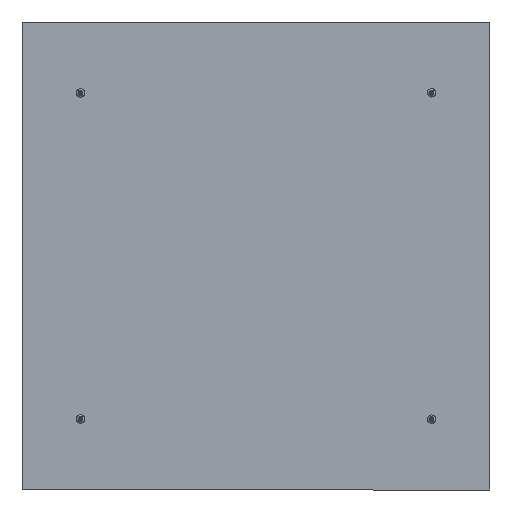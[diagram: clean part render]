
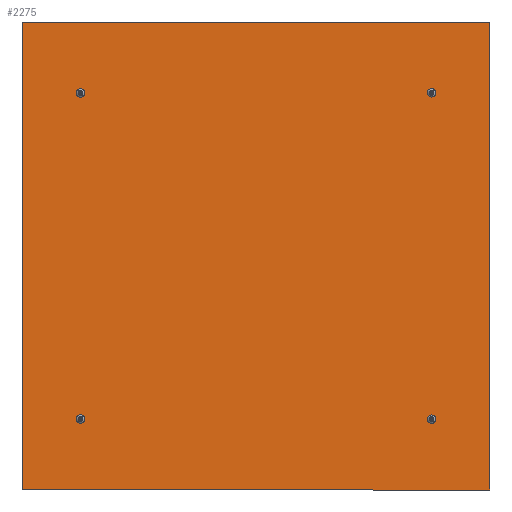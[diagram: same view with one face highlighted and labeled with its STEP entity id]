
A CAD part, left-side view. The second image highlights one B-rep face of the part: STEP entity #2275.
In plain terms, the highlighted planar face has unit normal (-1, 0, 0).
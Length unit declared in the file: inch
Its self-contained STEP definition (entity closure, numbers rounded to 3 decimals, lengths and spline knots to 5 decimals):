
#113 = EDGE_CURVE ( 'NONE', #14089, #4684, #14732, .T. ) ;
#153 = DIRECTION ( 'NONE',  ( 0., 0., -1. ) ) ;
#162 = EDGE_CURVE ( 'NONE', #4684, #14089, #8446, .T. ) ;
#181 = ORIENTED_EDGE ( 'NONE', *, *, #2170, .T. ) ;
#336 = EDGE_LOOP ( 'NONE', ( #756, #2829, #15972, #15269 ) ) ;
#376 = VECTOR ( 'NONE', #6240, 39.37008 ) ;
#472 = EDGE_LOOP ( 'NONE', ( #1552, #16819 ) ) ;
#756 = ORIENTED_EDGE ( 'NONE', *, *, #24342, .F. ) ;
#1537 = DIRECTION ( 'NONE',  ( 0., 0., -1. ) ) ;
#1552 = ORIENTED_EDGE ( 'NONE', *, *, #162, .T. ) ;
#1571 = AXIS2_PLACEMENT_3D ( 'NONE', #21933, #7183, #19822 ) ;
#1680 = LINE ( 'NONE', #10439, #16088 ) ;
#1873 = DIRECTION ( 'NONE',  ( 0., 0., -1. ) ) ;
#2170 = EDGE_CURVE ( 'NONE', #20501, #7026, #18481, .T. ) ;
#2275 = ADVANCED_FACE ( 'NONE', ( #14199, #19109, #16763, #19807, #25332 ), #5797, .F. ) ;
#2547 = VERTEX_POINT ( 'NONE', #21346 ) ;
#2625 = CIRCLE ( 'NONE', #21093, 0.1285 ) ;
#2829 = ORIENTED_EDGE ( 'NONE', *, *, #13573, .F. ) ;
#3190 = CARTESIAN_POINT ( 'NONE',  ( -0.125, 12., 12. ) ) ;
#3400 = ORIENTED_EDGE ( 'NONE', *, *, #3991, .T. ) ;
#3613 = CARTESIAN_POINT ( 'NONE',  ( -0.125, -9., 8.3675 ) ) ;
#3991 = EDGE_CURVE ( 'NONE', #24799, #16542, #21172, .T. ) ;
#4481 = LINE ( 'NONE', #10648, #10067 ) ;
#4684 = VERTEX_POINT ( 'NONE', #13951 ) ;
#5029 = CARTESIAN_POINT ( 'NONE',  ( -0.125, 12., 12. ) ) ;
#5157 = EDGE_LOOP ( 'NONE', ( #181, #18564 ) ) ;
#5318 = EDGE_CURVE ( 'NONE', #23612, #5933, #4481, .T. ) ;
#5695 = DIRECTION ( 'NONE',  ( 0., 0., -1. ) ) ;
#5797 = PLANE ( 'NONE',  #26718 ) ;
#5933 = VERTEX_POINT ( 'NONE', #25621 ) ;
#6240 = DIRECTION ( 'NONE',  ( 0., 1., 0. ) ) ;
#7026 = VERTEX_POINT ( 'NONE', #11860 ) ;
#7183 = DIRECTION ( 'NONE',  ( 1., 0., 0. ) ) ;
#7731 = EDGE_CURVE ( 'NONE', #2547, #14021, #2625, .T. ) ;
#7918 = DIRECTION ( 'NONE',  ( 0., 0., -1. ) ) ;
#8098 = AXIS2_PLACEMENT_3D ( 'NONE', #11524, #24118, #9394 ) ;
#8130 = AXIS2_PLACEMENT_3D ( 'NONE', #11984, #26678, #14118 ) ;
#8446 = CIRCLE ( 'NONE', #1571, 0.1285 ) ;
#8719 = CARTESIAN_POINT ( 'NONE',  ( -0.125, -9., 8.239 ) ) ;
#8802 = DIRECTION ( 'NONE',  ( 1., 0., 0. ) ) ;
#8851 = LINE ( 'NONE', #5029, #12145 ) ;
#9237 = DIRECTION ( 'NONE',  ( 0., -1., 0. ) ) ;
#9394 = DIRECTION ( 'NONE',  ( 0., 0., -1. ) ) ;
#9518 = CARTESIAN_POINT ( 'NONE',  ( -0.125, 9., 8.4885 ) ) ;
#9782 = CARTESIAN_POINT ( 'NONE',  ( -0.125, -9., -8.239 ) ) ;
#10067 = VECTOR ( 'NONE', #153, 39.37008 ) ;
#10147 = CARTESIAN_POINT ( 'NONE',  ( -0.125, 9., 8.36 ) ) ;
#10384 = CARTESIAN_POINT ( 'NONE',  ( -0.125, 9., -8.4885 ) ) ;
#10439 = CARTESIAN_POINT ( 'NONE',  ( -0.125, 12., 12. ) ) ;
#10648 = CARTESIAN_POINT ( 'NONE',  ( -0.125, -12., 12. ) ) ;
#11524 = CARTESIAN_POINT ( 'NONE',  ( -0.125, -9., -8.3675 ) ) ;
#11860 = CARTESIAN_POINT ( 'NONE',  ( -0.125, -9., 8.496 ) ) ;
#11984 = CARTESIAN_POINT ( 'NONE',  ( -0.125, -9., 8.3675 ) ) ;
#12145 = VECTOR ( 'NONE', #9237, 39.37008 ) ;
#12283 = DIRECTION ( 'NONE',  ( 0., 0., -1. ) ) ;
#13109 = EDGE_LOOP ( 'NONE', ( #15873, #15883 ) ) ;
#13238 = EDGE_LOOP ( 'NONE', ( #19068, #3400 ) ) ;
#13573 = EDGE_CURVE ( 'NONE', #21441, #19570, #1680, .T. ) ;
#13951 = CARTESIAN_POINT ( 'NONE',  ( -0.125, -9., -8.496 ) ) ;
#14021 = VERTEX_POINT ( 'NONE', #9518 ) ;
#14089 = VERTEX_POINT ( 'NONE', #9782 ) ;
#14118 = DIRECTION ( 'NONE',  ( 0., 0., -1. ) ) ;
#14138 = DIRECTION ( 'NONE',  ( 1., 0., 0. ) ) ;
#14199 = FACE_BOUND ( 'NONE', #13109, .T. ) ;
#14467 = DIRECTION ( 'NONE',  ( 1., 0., 0. ) ) ;
#14732 = CIRCLE ( 'NONE', #8098, 0.1285 ) ;
#14890 = AXIS2_PLACEMENT_3D ( 'NONE', #3613, #18342, #5695 ) ;
#15269 = ORIENTED_EDGE ( 'NONE', *, *, #5318, .F. ) ;
#15873 = ORIENTED_EDGE ( 'NONE', *, *, #7731, .T. ) ;
#15883 = ORIENTED_EDGE ( 'NONE', *, *, #21236, .T. ) ;
#15972 = ORIENTED_EDGE ( 'NONE', *, *, #21438, .F. ) ;
#16088 = VECTOR ( 'NONE', #23041, 39.37008 ) ;
#16542 = VERTEX_POINT ( 'NONE', #10384 ) ;
#16583 = EDGE_CURVE ( 'NONE', #7026, #20501, #17946, .T. ) ;
#16763 = FACE_BOUND ( 'NONE', #472, .T. ) ;
#16819 = ORIENTED_EDGE ( 'NONE', *, *, #113, .T. ) ;
#17222 = CARTESIAN_POINT ( 'NONE',  ( -0.125, -12., 12. ) ) ;
#17564 = AXIS2_PLACEMENT_3D ( 'NONE', #27032, #14467, #1873 ) ;
#17946 = CIRCLE ( 'NONE', #14890, 0.1285 ) ;
#18342 = DIRECTION ( 'NONE',  ( 1., 0., 0. ) ) ;
#18481 = CIRCLE ( 'NONE', #8130, 0.1285 ) ;
#18564 = ORIENTED_EDGE ( 'NONE', *, *, #16583, .T. ) ;
#19068 = ORIENTED_EDGE ( 'NONE', *, *, #27048, .T. ) ;
#19109 = FACE_BOUND ( 'NONE', #13238, .T. ) ;
#19570 = VERTEX_POINT ( 'NONE', #3190 ) ;
#19807 = FACE_BOUND ( 'NONE', #5157, .T. ) ;
#19822 = DIRECTION ( 'NONE',  ( 0., 0., -1. ) ) ;
#20501 = VERTEX_POINT ( 'NONE', #8719 ) ;
#20563 = DIRECTION ( 'NONE',  ( 1., 0., 0. ) ) ;
#20767 = CIRCLE ( 'NONE', #17564, 0.1285 ) ;
#20923 = CARTESIAN_POINT ( 'NONE',  ( -0.125, 12., -12. ) ) ;
#21093 = AXIS2_PLACEMENT_3D ( 'NONE', #26701, #14138, #1537 ) ;
#21172 = CIRCLE ( 'NONE', #23319, 0.1285 ) ;
#21236 = EDGE_CURVE ( 'NONE', #14021, #2547, #22457, .T. ) ;
#21276 = CARTESIAN_POINT ( 'NONE',  ( -0.125, 9., -8.2315 ) ) ;
#21346 = CARTESIAN_POINT ( 'NONE',  ( -0.125, 9., 8.2315 ) ) ;
#21431 = CARTESIAN_POINT ( 'NONE',  ( -0.125, 9., -8.36 ) ) ;
#21438 = EDGE_CURVE ( 'NONE', #5933, #21441, #24101, .T. ) ;
#21441 = VERTEX_POINT ( 'NONE', #27227 ) ;
#21933 = CARTESIAN_POINT ( 'NONE',  ( -0.125, -9., -8.3675 ) ) ;
#22457 = CIRCLE ( 'NONE', #22592, 0.1285 ) ;
#22549 = CARTESIAN_POINT ( 'NONE',  ( -0.125, 0., 0. ) ) ;
#22592 = AXIS2_PLACEMENT_3D ( 'NONE', #10147, #24864, #12283 ) ;
#23041 = DIRECTION ( 'NONE',  ( 0., 0., 1. ) ) ;
#23319 = AXIS2_PLACEMENT_3D ( 'NONE', #21431, #8802, #23529 ) ;
#23529 = DIRECTION ( 'NONE',  ( 0., 0., -1. ) ) ;
#23612 = VERTEX_POINT ( 'NONE', #17222 ) ;
#24101 = LINE ( 'NONE', #20923, #376 ) ;
#24118 = DIRECTION ( 'NONE',  ( 1., 0., 0. ) ) ;
#24342 = EDGE_CURVE ( 'NONE', #19570, #23612, #8851, .T. ) ;
#24799 = VERTEX_POINT ( 'NONE', #21276 ) ;
#24864 = DIRECTION ( 'NONE',  ( 1., 0., 0. ) ) ;
#25332 = FACE_OUTER_BOUND ( 'NONE', #336, .T. ) ;
#25621 = CARTESIAN_POINT ( 'NONE',  ( -0.125, -12., -12. ) ) ;
#26678 = DIRECTION ( 'NONE',  ( 1., 0., 0. ) ) ;
#26701 = CARTESIAN_POINT ( 'NONE',  ( -0.125, 9., 8.36 ) ) ;
#26718 = AXIS2_PLACEMENT_3D ( 'NONE', #22549, #20563, #7918 ) ;
#27032 = CARTESIAN_POINT ( 'NONE',  ( -0.125, 9., -8.36 ) ) ;
#27048 = EDGE_CURVE ( 'NONE', #16542, #24799, #20767, .T. ) ;
#27227 = CARTESIAN_POINT ( 'NONE',  ( -0.125, 12., -12. ) ) ;
